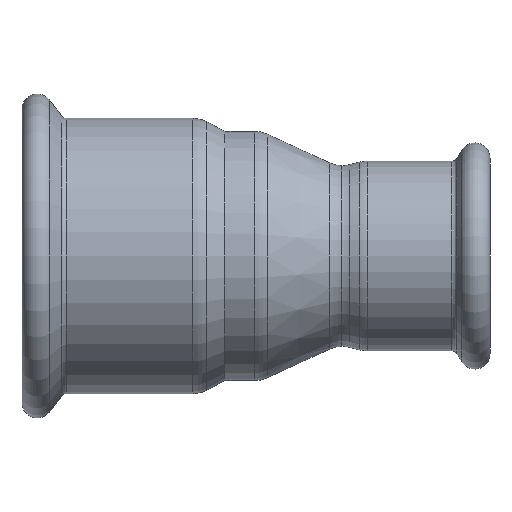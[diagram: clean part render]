
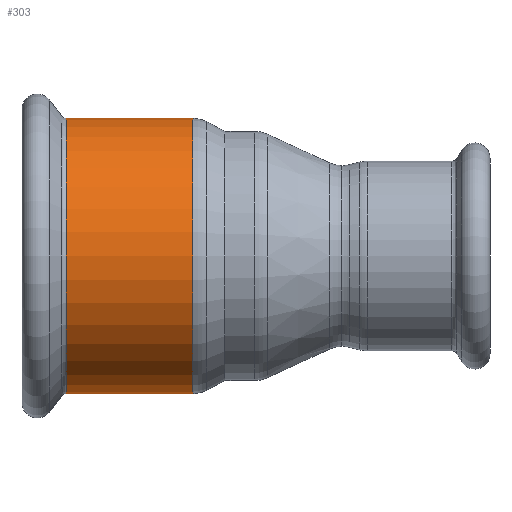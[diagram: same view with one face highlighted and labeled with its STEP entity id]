
A CAD part, front view. The second image highlights one B-rep face of the part: STEP entity #303.
In plain terms, the highlighted cylindrical face has radius 22.65 mm (diameter 45.3 mm), a partial arc.
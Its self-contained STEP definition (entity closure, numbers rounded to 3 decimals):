
#47 = DIRECTION ( 'NONE',  ( -1., 0., 0. ) ) ;
#160 = CIRCLE ( 'NONE', #1913, 22.65 ) ;
#303 = ADVANCED_FACE ( 'NONE', ( #2818 ), #1755, .T. ) ;
#323 = DIRECTION ( 'NONE',  ( -1., 0., 0. ) ) ;
#357 = VECTOR ( 'NONE', #47, 1000. ) ;
#371 = EDGE_CURVE ( 'NONE', #1648, #996, #1154, .T. ) ;
#412 = VECTOR ( 'NONE', #491, 1000. ) ;
#436 = CARTESIAN_POINT ( 'NONE',  ( -33.394, 0., 22.65 ) ) ;
#460 = AXIS2_PLACEMENT_3D ( 'NONE', #2447, #323, #1042 ) ;
#491 = DIRECTION ( 'NONE',  ( -1., 0., 0. ) ) ;
#505 = LINE ( 'NONE', #2815, #357 ) ;
#562 = ORIENTED_EDGE ( 'NONE', *, *, #2805, .F. ) ;
#597 = DIRECTION ( 'NONE',  ( 0., 0., 1. ) ) ;
#824 = DIRECTION ( 'NONE',  ( 1., 0., 0. ) ) ;
#866 = AXIS2_PLACEMENT_3D ( 'NONE', #2216, #824, #597 ) ;
#996 = VERTEX_POINT ( 'NONE', #1106 ) ;
#1042 = DIRECTION ( 'NONE',  ( 0., 0., 1. ) ) ;
#1106 = CARTESIAN_POINT ( 'NONE',  ( -33.394, 0., -22.65 ) ) ;
#1146 = CARTESIAN_POINT ( 'NONE',  ( -12.624, 0., 22.65 ) ) ;
#1154 = CIRCLE ( 'NONE', #866, 22.65 ) ;
#1193 = CARTESIAN_POINT ( 'NONE',  ( -44.93, 0., 22.65 ) ) ;
#1294 = VERTEX_POINT ( 'NONE', #1146 ) ;
#1648 = VERTEX_POINT ( 'NONE', #436 ) ;
#1694 = LINE ( 'NONE', #1193, #412 ) ;
#1755 = CYLINDRICAL_SURFACE ( 'NONE', #460, 22.65 ) ;
#1913 = AXIS2_PLACEMENT_3D ( 'NONE', #2496, #2980, #3022 ) ;
#1970 = ORIENTED_EDGE ( 'NONE', *, *, #2247, .T. ) ;
#2057 = VERTEX_POINT ( 'NONE', #2579 ) ;
#2216 = CARTESIAN_POINT ( 'NONE',  ( -33.394, 0., 0. ) ) ;
#2247 = EDGE_CURVE ( 'NONE', #2057, #1294, #160, .T. ) ;
#2434 = ORIENTED_EDGE ( 'NONE', *, *, #371, .T. ) ;
#2447 = CARTESIAN_POINT ( 'NONE',  ( -44.93, 0., 0. ) ) ;
#2452 = ORIENTED_EDGE ( 'NONE', *, *, #2519, .T. ) ;
#2496 = CARTESIAN_POINT ( 'NONE',  ( -12.624, 0., 0. ) ) ;
#2519 = EDGE_CURVE ( 'NONE', #1294, #1648, #1694, .T. ) ;
#2579 = CARTESIAN_POINT ( 'NONE',  ( -12.624, 0., -22.65 ) ) ;
#2802 = EDGE_LOOP ( 'NONE', ( #562, #1970, #2452, #2434 ) ) ;
#2805 = EDGE_CURVE ( 'NONE', #2057, #996, #505, .T. ) ;
#2815 = CARTESIAN_POINT ( 'NONE',  ( -44.93, 0., -22.65 ) ) ;
#2818 = FACE_OUTER_BOUND ( 'NONE', #2802, .T. ) ;
#2980 = DIRECTION ( 'NONE',  ( -1., 0., 0. ) ) ;
#3022 = DIRECTION ( 'NONE',  ( 0., 0., -1. ) ) ;
